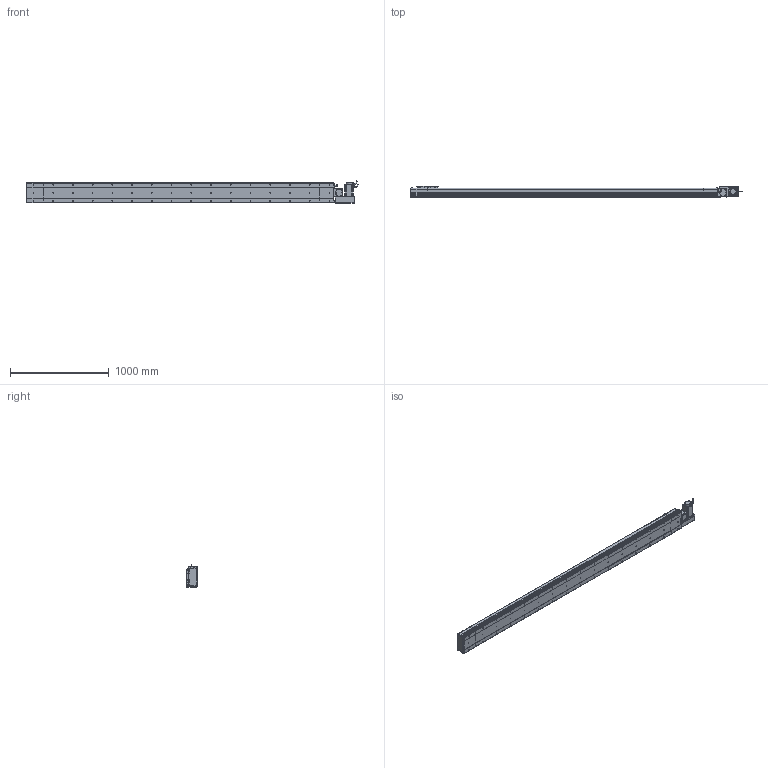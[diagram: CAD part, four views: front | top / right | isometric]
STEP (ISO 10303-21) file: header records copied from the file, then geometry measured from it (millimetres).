
FILE_DESCRIPTION (( 'STEP AP214' ), '1' );
FILE_NAME ('D20 CBH RH S2800.STEP', '2010-06-30T10:29:21', ( 'Conseil Régional Haute-Normandie' ), ( 'Conseil Régional Haute-Normandie' ), 'SwSTEP 2.0', 'SolidWorks 2010', '' );
FILE_SCHEMA (( 'AUTOMOTIVE_DESIGN' ));
Length unit declared in the file: millimetre
Products named in the file (31): ecrou_Default; Support Chariot D20_Default; Plaque de Bout Tail D20_Default; D20 CBH RH S2800; Head D20 RH_Default; Couvercle S2800_Default; Tail D20_Default; Corp S2800_Default; Glissiere_Default; vis M5 L15_Default; Cache Support Moteur RH_Default; vis M5 L30_Default; vis M5 L47_Default; Chariot D20_Default; Corp D20 S2800_Default; Conecteur_Default; Corp Tail D20 RH_Default; Plaque de Bout Head D20 RH_Default; Couvercle RH_Default; Plaque De Serrage D20 RH_Default; Corp Tail D20_Default; Rondelle Cache D20 RH_Default; Moteur motionking 90BLDC125A-640; Support moteur RH_Default; corps 90BLDC125A-640; codeur 90BLDC125-640; avant 90BLDC125A-640; Conecteur2_Default; Couvercle_Default; Plaque De Serrage D20_Default
Assembly tree (68 placements, depth 4):
  D20 CBH RH S2800
    Chariot D20_Default
      vis M5 L15_Default  x8
      Support Chariot D20_Default
      Glissiere_Default
      Chariot D20_Default
    Head D20 RH_Default
      vis M5 L15_Default  x14
      vis M5 L30_Default  x4
      ecrou_Default  x4
      Rondelle Cache D20 RH_Default  x3
      Couvercle RH_Default
      vis M5 L47_Default  x4
      Cache Support Moteur RH_Default
      Support moteur RH_Default
      Plaque De Serrage D20 RH_Default
      Plaque de Bout Head D20 RH_Default
      Corp Tail D20 RH_Default
      Moteur motionking 90BLDC125A-640
        Conecteur2_Default
        Conecteur_Default
        corps 90BLDC125A-640
        avant 90BLDC125A-640
        codeur 90BLDC125-640
    Tail D20_Default
      Corp Tail D20_Default
      vis M5 L15_Default  x6
      Plaque De Serrage D20_Default
      Plaque de Bout Tail D20_Default
      Couvercle_Default
    Corp D20 S2800_Default
      Couvercle S2800_Default
      Corp S2800_Default
Bounding box: 3365.45 x 119.5 x 229.7 mm (x, y, z)
Volume: 21978630.6 mm3; surface area: 4237801.8 mm2
Topology: 105 solids, 105 shells, 3853 faces, 9570 edges, 6214 vertices
Faces by surface type: plane 2140, bspline 806, cylinder 736, torus 95, cone 72, sphere 4
Entity records: 160382 total; most frequent: CARTESIAN_POINT 82469, ORIENTED_EDGE 15408, DIRECTION 11806, EDGE_CURVE 7704, VERTEX_POINT 5098, LINE 4960, VECTOR 4960, AXIS2_PLACEMENT_3D 3423
